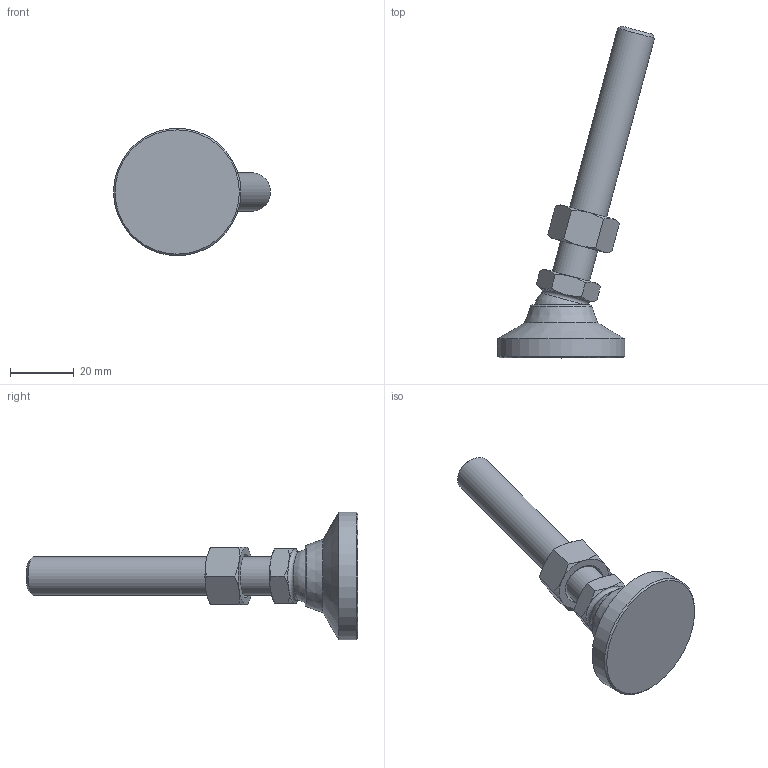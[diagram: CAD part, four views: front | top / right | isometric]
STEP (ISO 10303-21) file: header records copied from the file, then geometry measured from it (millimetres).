
FILE_DESCRIPTION( ( 'STEP AP214' ), ' ' );
FILE_NAME( 'O:/ganter_2015/teil_2/2_5/gn343_2/gn343_2_os/Levelling foot with threaded stud GN 343.2-40-M12-80-OS-(-15).stp', '2015-10-26T09:07:33', ( '' ), ( '' ), ' ', 'PARTsolutions', ' ' );
FILE_SCHEMA( ( 'AUTOMOTIVE_DESIGN { 1 0 10303 214 1 1 1 1 }' ) );
Length unit declared in the file: millimetre
Products named in the file (4): Levelling foot with threaded stud GN 343.2-40-M12-80-OS-(-15); _Levelling foot with threaded stud GN 343.2-40-M12-80-OS-(-15)_foot; _Levelling foot with threaded stud GN 343.2-40-M12-80-OS-(-15)_screw; _Stainless Steel-Levelling feet GN 343.2-40-M12-80-OS-(-15)_nut
Assembly tree (3 placements, depth 2):
  Levelling foot with threaded stud GN 343.2-40-M12-80-OS-(-15)
    _Levelling foot with threaded stud GN 343.2-40-M12-80-OS-(-15)_foot
    _Levelling foot with threaded stud GN 343.2-40-M12-80-OS-(-15)_screw
    _Stainless Steel-Levelling feet GN 343.2-40-M12-80-OS-(-15)_nut
Bounding box: 49.29 x 104.17 x 40 mm (x, y, z)
Volume: 26740.9 mm3; surface area: 9770.8 mm2
Topology: 3 solids, 3 shells, 55 faces, 116 edges, 67 vertices
Faces by surface type: cone 30, plane 18, cylinder 3, torus 2, sphere 2
Full cylindrical faces by diameter (mm): 10.106 x1, 12 x1, 40 x1
Entity records: 2038 total; most frequent: CARTESIAN_POINT 495, DIRECTION 208, ORIENTED_EDGE 198, EDGE_CURVE 99, AXIS2_PLACEMENT_3D 98, EDGE_LOOP 70, VERTEX_POINT 65, FACE_OUTER_BOUND 60
